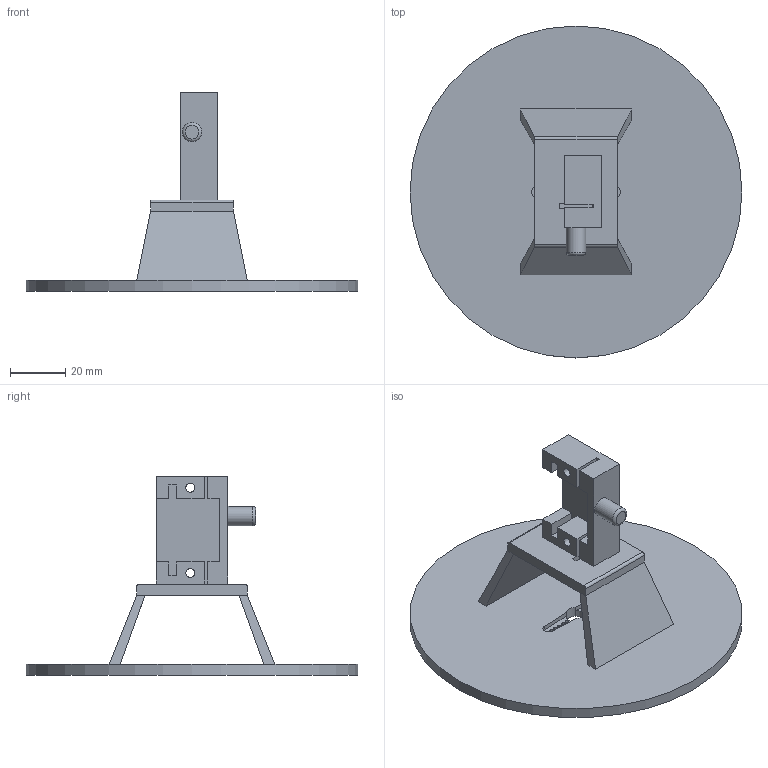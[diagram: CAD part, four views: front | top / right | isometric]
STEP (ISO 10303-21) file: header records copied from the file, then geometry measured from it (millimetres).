
FILE_DESCRIPTION(/* description */ (''),/* implementation_level */ '2;1');
FILE_NAME(/* name */ 'Shoulder Joint V2_v4.tmp.step',/* time_stamp */ '2026-11-01T13:11:43+02:00',/* author */ (''),/* organization */ (''),/* preprocessor_version */ 'ST-DEVELOPER v20.2',/* originating_system */ 'Autodesk Translation Framework v15.15.0.0',/* authorisation */ '');
FILE_SCHEMA (('AUTOMOTIVE_DESIGN { 1 0 10303 214 3 1 1 }'));
Length unit declared in the file: millimetre
Products named in the file (6): Shoulder Joint V2; Base Joint; Knob; New Servo Cage - Long; Motor Stand; Shoulder
Assembly tree (5 placements, depth 3):
  Shoulder Joint V2
    Base Joint
      Knob
      New Servo Cage - Long
      Motor Stand
    Shoulder
Bounding box: 120 x 120 x 71.8 mm (x, y, z)
Volume: 63362.8 mm3; surface area: 36722.3 mm2
Topology: 4 solids, 4 shells, 81 faces, 211 edges, 138 vertices
Faces by surface type: plane 56, cylinder 24, torus 1
Full cylindrical faces by diameter (mm): 1.2 x12, 3.2 x2, 7 x1, 120 x1
Entity records: 2705 total; most frequent: DIRECTION 446, CARTESIAN_POINT 441, ORIENTED_EDGE 422, EDGE_CURVE 211, LINE 160, VECTOR 160, AXIS2_PLACEMENT_3D 143, VERTEX_POINT 138
